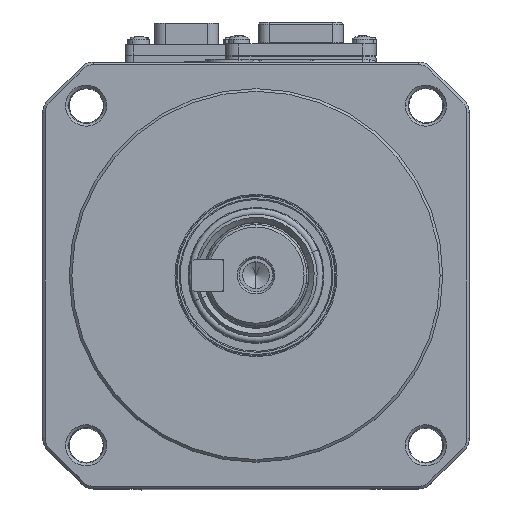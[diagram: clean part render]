
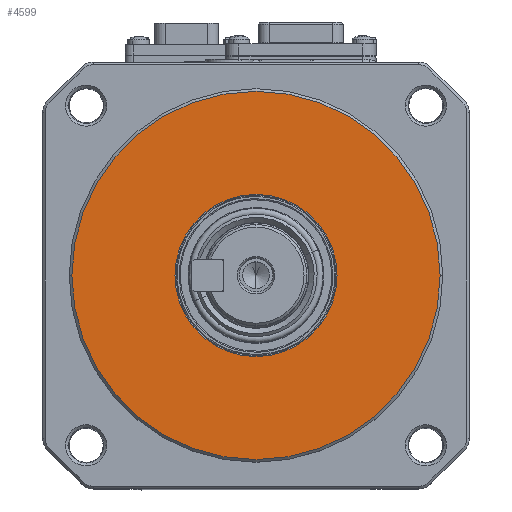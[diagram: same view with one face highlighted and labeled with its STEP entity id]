
A CAD part, top view. The second image highlights one B-rep face of the part: STEP entity #4599.
In plain terms, the highlighted planar face has unit normal (0, 0, 1).
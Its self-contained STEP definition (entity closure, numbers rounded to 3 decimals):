
#202 = DIRECTION ( 'NONE',  ( 0., 0., -1. ) ) ;
#496 = AXIS2_PLACEMENT_3D ( 'NONE', #44227, #68875, #37878 ) ;
#3148 = VERTEX_POINT ( 'NONE', #102532 ) ;
#4599 = ADVANCED_FACE ( 'NONE', ( #54316, #14905 ), #79532, .F. ) ;
#4725 = VERTEX_POINT ( 'NONE', #88935 ) ;
#4876 = EDGE_CURVE ( 'NONE', #93425, #4725, #19227, .T. ) ;
#6245 = EDGE_CURVE ( 'NONE', #4725, #93425, #83610, .T. ) ;
#14197 = AXIS2_PLACEMENT_3D ( 'NONE', #103720, #202, #80038 ) ;
#14905 = FACE_OUTER_BOUND ( 'NONE', #62353, .T. ) ;
#15379 = CARTESIAN_POINT ( 'NONE',  ( 0., 15.191, 0. ) ) ;
#19227 = CIRCLE ( 'NONE', #94731, 15.191 ) ;
#21110 = DIRECTION ( 'NONE',  ( 0., 0., -1. ) ) ;
#23556 = ORIENTED_EDGE ( 'NONE', *, *, #100689, .T. ) ;
#28720 = CIRCLE ( 'NONE', #35429, 34.5 ) ;
#34971 = AXIS2_PLACEMENT_3D ( 'NONE', #86883, #54319, #93703 ) ;
#35429 = AXIS2_PLACEMENT_3D ( 'NONE', #69801, #37777, #37293 ) ;
#35522 = ORIENTED_EDGE ( 'NONE', *, *, #4876, .T. ) ;
#37293 = DIRECTION ( 'NONE',  ( 1., 0., 0. ) ) ;
#37777 = DIRECTION ( 'NONE',  ( 0., 0., 1. ) ) ;
#37878 = DIRECTION ( 'NONE',  ( 1., 0., 0. ) ) ;
#38538 = CARTESIAN_POINT ( 'NONE',  ( -34.5, 0., 0. ) ) ;
#44227 = CARTESIAN_POINT ( 'NONE',  ( 0., 0., 0. ) ) ;
#54316 = FACE_BOUND ( 'NONE', #95599, .T. ) ;
#54319 = DIRECTION ( 'NONE',  ( 0., 0., -1. ) ) ;
#62353 = EDGE_LOOP ( 'NONE', ( #96740, #23556 ) ) ;
#66916 = ORIENTED_EDGE ( 'NONE', *, *, #6245, .T. ) ;
#68875 = DIRECTION ( 'NONE',  ( 0., 0., 1. ) ) ;
#69260 = VERTEX_POINT ( 'NONE', #38538 ) ;
#69801 = CARTESIAN_POINT ( 'NONE',  ( 0., 0., 0. ) ) ;
#71517 = DIRECTION ( 'NONE',  ( 0., 1., 0. ) ) ;
#74096 = EDGE_CURVE ( 'NONE', #69260, #3148, #84396, .T. ) ;
#79532 = PLANE ( 'NONE',  #14197 ) ;
#80038 = DIRECTION ( 'NONE',  ( 0., 1., 0. ) ) ;
#83610 = CIRCLE ( 'NONE', #34971, 15.191 ) ;
#84396 = CIRCLE ( 'NONE', #496, 34.5 ) ;
#86883 = CARTESIAN_POINT ( 'NONE',  ( 0., 0., 0. ) ) ;
#88935 = CARTESIAN_POINT ( 'NONE',  ( 0., -15.191, 0. ) ) ;
#93071 = CARTESIAN_POINT ( 'NONE',  ( 0., 0., 0. ) ) ;
#93425 = VERTEX_POINT ( 'NONE', #15379 ) ;
#93703 = DIRECTION ( 'NONE',  ( 0., 1., 0. ) ) ;
#94731 = AXIS2_PLACEMENT_3D ( 'NONE', #93071, #21110, #71517 ) ;
#95599 = EDGE_LOOP ( 'NONE', ( #35522, #66916 ) ) ;
#96740 = ORIENTED_EDGE ( 'NONE', *, *, #74096, .T. ) ;
#100689 = EDGE_CURVE ( 'NONE', #3148, #69260, #28720, .T. ) ;
#102532 = CARTESIAN_POINT ( 'NONE',  ( 34.5, 0., 0. ) ) ;
#103720 = CARTESIAN_POINT ( 'NONE',  ( 0., 14.7, 0. ) ) ;
